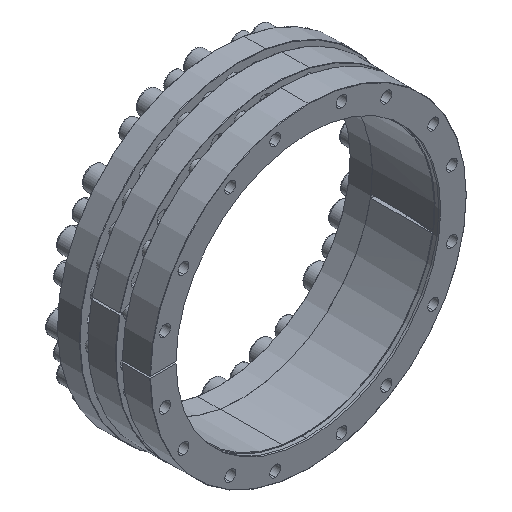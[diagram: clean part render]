
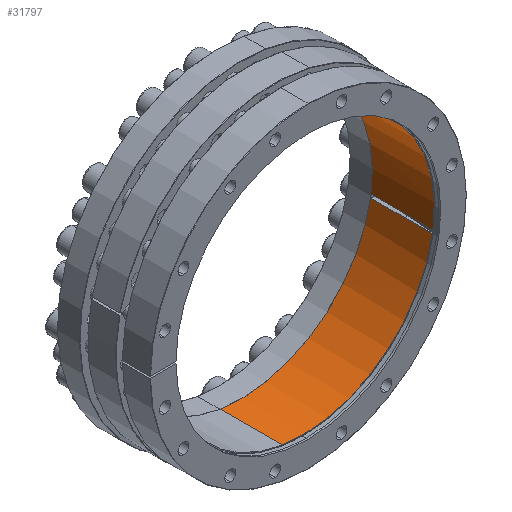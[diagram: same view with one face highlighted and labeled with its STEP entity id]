
A CAD part, isometric view. The second image highlights one B-rep face of the part: STEP entity #31797.
In plain terms, the highlighted cylindrical face has radius 210 mm (diameter 420 mm), a partial arc.
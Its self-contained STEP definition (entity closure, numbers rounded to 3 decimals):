
#625 = EDGE_CURVE ( 'NONE', #19984, #31089, #43676, .T. ) ;
#1934 = VECTOR ( 'NONE', #36007, 1000. ) ;
#2031 = CARTESIAN_POINT ( 'NONE',  ( 32.851, 9.005, 207.415 ) ) ;
#3911 = CARTESIAN_POINT ( 'NONE',  ( 0., 108.005, 0. ) ) ;
#4014 = FACE_OUTER_BOUND ( 'NONE', #47363, .T. ) ;
#4761 = CARTESIAN_POINT ( 'NONE',  ( 0., 9.005, 0. ) ) ;
#7266 = VECTOR ( 'NONE', #40092, 1000. ) ;
#7405 = AXIS2_PLACEMENT_3D ( 'NONE', #18228, #44391, #22012 ) ;
#7683 = DIRECTION ( 'NONE',  ( -0.156, 0., -0.988 ) ) ;
#8491 = DIRECTION ( 'NONE',  ( -0.156, 0., -0.988 ) ) ;
#9138 = AXIS2_PLACEMENT_3D ( 'NONE', #39714, #17321, #43458 ) ;
#10257 = CARTESIAN_POINT ( 'NONE',  ( 207.791, 9.005, -30.38 ) ) ;
#10720 = AXIS2_PLACEMENT_3D ( 'NONE', #16834, #27939, #31856 ) ;
#10915 = LINE ( 'NONE', #10257, #30822 ) ;
#12122 = EDGE_CURVE ( 'NONE', #47419, #19984, #30173, .T. ) ;
#12841 = VERTEX_POINT ( 'NONE', #30267 ) ;
#13573 = CIRCLE ( 'NONE', #42672, 210. ) ;
#14814 = CIRCLE ( 'NONE', #7405, 210. ) ;
#15436 = DIRECTION ( 'NONE',  ( 0., 1., 0. ) ) ;
#15477 = CARTESIAN_POINT ( 'NONE',  ( 207.009, 9.005, -35.318 ) ) ;
#16834 = CARTESIAN_POINT ( 'NONE',  ( 0., 9.005, 0. ) ) ;
#17198 = CIRCLE ( 'NONE', #26440, 210. ) ;
#17321 = DIRECTION ( 'NONE',  ( 0., -1., 0. ) ) ;
#17667 = EDGE_CURVE ( 'NONE', #46794, #44529, #40531, .T. ) ;
#18089 = VERTEX_POINT ( 'NONE', #27095 ) ;
#18228 = CARTESIAN_POINT ( 'NONE',  ( 0., 9.005, 0. ) ) ;
#18350 = LINE ( 'NONE', #24949, #7266 ) ;
#18358 = CARTESIAN_POINT ( 'NONE',  ( 207.791, 9.005, -30.38 ) ) ;
#19290 = ORIENTED_EDGE ( 'NONE', *, *, #40125, .T. ) ;
#19984 = VERTEX_POINT ( 'NONE', #46980 ) ;
#22012 = DIRECTION ( 'NONE',  ( -0.156, 0., -0.988 ) ) ;
#24192 = ORIENTED_EDGE ( 'NONE', *, *, #47273, .T. ) ;
#24771 = EDGE_CURVE ( 'NONE', #25654, #44529, #13573, .T. ) ;
#24949 = CARTESIAN_POINT ( 'NONE',  ( -32.851, 9.005, -207.415 ) ) ;
#25654 = VERTEX_POINT ( 'NONE', #18358 ) ;
#26440 = AXIS2_PLACEMENT_3D ( 'NONE', #3911, #30089, #7683 ) ;
#27095 = CARTESIAN_POINT ( 'NONE',  ( -32.851, 9.005, -207.415 ) ) ;
#27662 = EDGE_CURVE ( 'NONE', #12841, #46794, #17198, .T. ) ;
#27939 = DIRECTION ( 'NONE',  ( 0., -1., 0. ) ) ;
#28739 = ORIENTED_EDGE ( 'NONE', *, *, #24771, .T. ) ;
#29169 = CYLINDRICAL_SURFACE ( 'NONE', #10720, 210. ) ;
#30089 = DIRECTION ( 'NONE',  ( 0., -1., 0. ) ) ;
#30173 = LINE ( 'NONE', #41561, #40081 ) ;
#30267 = CARTESIAN_POINT ( 'NONE',  ( -32.851, 108.005, -207.415 ) ) ;
#30822 = VECTOR ( 'NONE', #36400, 1000. ) ;
#30909 = DIRECTION ( 'NONE',  ( 0., -1., 0. ) ) ;
#31089 = VERTEX_POINT ( 'NONE', #35218 ) ;
#31797 = ADVANCED_FACE ( 'NONE', ( #4014 ), #29169, .F. ) ;
#31856 = DIRECTION ( 'NONE',  ( -0.156, 0., -0.988 ) ) ;
#32256 = CARTESIAN_POINT ( 'NONE',  ( 32.851, 9.005, 207.415 ) ) ;
#33076 = ORIENTED_EDGE ( 'NONE', *, *, #17667, .F. ) ;
#33507 = CARTESIAN_POINT ( 'NONE',  ( 32.851, 108.005, 207.415 ) ) ;
#35218 = CARTESIAN_POINT ( 'NONE',  ( 207.791, 107.505, -30.38 ) ) ;
#36007 = DIRECTION ( 'NONE',  ( 0., -1., 0. ) ) ;
#36400 = DIRECTION ( 'NONE',  ( 0., -1., 0. ) ) ;
#37185 = ORIENTED_EDGE ( 'NONE', *, *, #12122, .T. ) ;
#39714 = CARTESIAN_POINT ( 'NONE',  ( 0., 107.505, 0. ) ) ;
#40081 = VECTOR ( 'NONE', #15436, 1000. ) ;
#40092 = DIRECTION ( 'NONE',  ( 0., -1., 0. ) ) ;
#40125 = EDGE_CURVE ( 'NONE', #31089, #25654, #10915, .T. ) ;
#40531 = LINE ( 'NONE', #32256, #1934 ) ;
#40700 = EDGE_CURVE ( 'NONE', #12841, #18089, #18350, .T. ) ;
#41561 = CARTESIAN_POINT ( 'NONE',  ( 207.009, 9.005, -35.318 ) ) ;
#42672 = AXIS2_PLACEMENT_3D ( 'NONE', #4761, #30909, #8491 ) ;
#43458 = DIRECTION ( 'NONE',  ( 0.156, 0., 0.988 ) ) ;
#43676 = CIRCLE ( 'NONE', #9138, 210. ) ;
#43843 = ORIENTED_EDGE ( 'NONE', *, *, #40700, .T. ) ;
#44391 = DIRECTION ( 'NONE',  ( 0., -1., 0. ) ) ;
#44529 = VERTEX_POINT ( 'NONE', #2031 ) ;
#46794 = VERTEX_POINT ( 'NONE', #33507 ) ;
#46980 = CARTESIAN_POINT ( 'NONE',  ( 207.009, 107.505, -35.318 ) ) ;
#47273 = EDGE_CURVE ( 'NONE', #18089, #47419, #14814, .T. ) ;
#47334 = ORIENTED_EDGE ( 'NONE', *, *, #27662, .F. ) ;
#47363 = EDGE_LOOP ( 'NONE', ( #33076, #47334, #43843, #24192, #37185, #48059, #19290, #28739 ) ) ;
#47419 = VERTEX_POINT ( 'NONE', #15477 ) ;
#48059 = ORIENTED_EDGE ( 'NONE', *, *, #625, .T. ) ;
